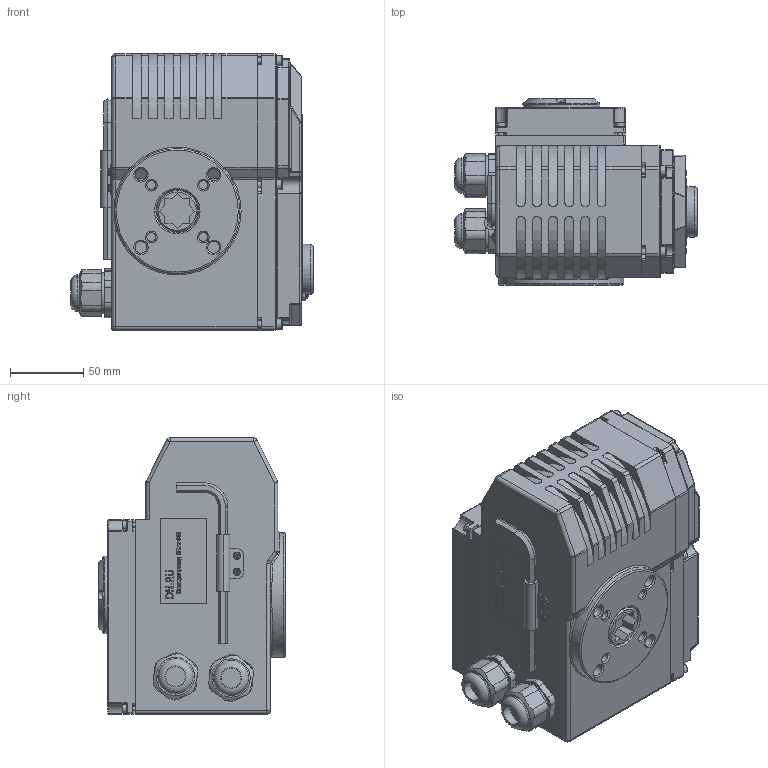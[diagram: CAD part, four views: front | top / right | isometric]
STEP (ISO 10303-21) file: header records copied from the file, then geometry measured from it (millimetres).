
FILE_DESCRIPTION(/* description */ ('D300-14486','CAx-IF Rec.Pracs.---Representation and Presentation of Product Manufacturing Information (PMI)---4.0---2014-10-13'),/* implementation_level */ '2;1');
FILE_NAME(/* name */ '',/* time_stamp */ '2026-04-01T01:22:44+03:00',/* author */ ('DN.RU'),/* organization */ ('DN.RU'),/* preprocessor_version */ 'ST-DEVELOPER v20',/* originating_system */ 'Autodesk Inventor 2025',/* authorisation */ '');
FILE_SCHEMA (('AP242_MANAGED_MODEL_BASED_3D_ENGINEERING_MIM_LF { 1 0 10303 442 1 1 4 }'));
Products named in the file (1): QT-N-015EM-O1-220VAC-У1 HARK
Bounding box: 165 x 127 x 188 mm (x, y, z)
Volume: 2372978.9 mm3; surface area: 179782 mm2
Topology: 1 solids, 1 shells, 1494 faces, 3970 edges, 2563 vertices
Faces by surface type: plane 690, cylinder 312, bspline 245, torus 112, cone 95, sphere 40
Full cylindrical faces by diameter (mm): 3 x4, 4 x6, 6 x4, 7 x6, 8 x4, 13.606 x2, 23.953 x2, 27.184 x2, 28 x1, 29 x1, 34.169 x1, 34.486 x1, 40 x1, 42.826 x1, 52 x1, 85 x1
Entity records: 51492 total; most frequent: CARTESIAN_POINT 14529, ORIENTED_EDGE 7906, DIRECTION 6593, EDGE_CURVE 3953, VERTEX_POINT 2563, AXIS2_PLACEMENT_3D 2252, LINE 2089, VECTOR 2089
